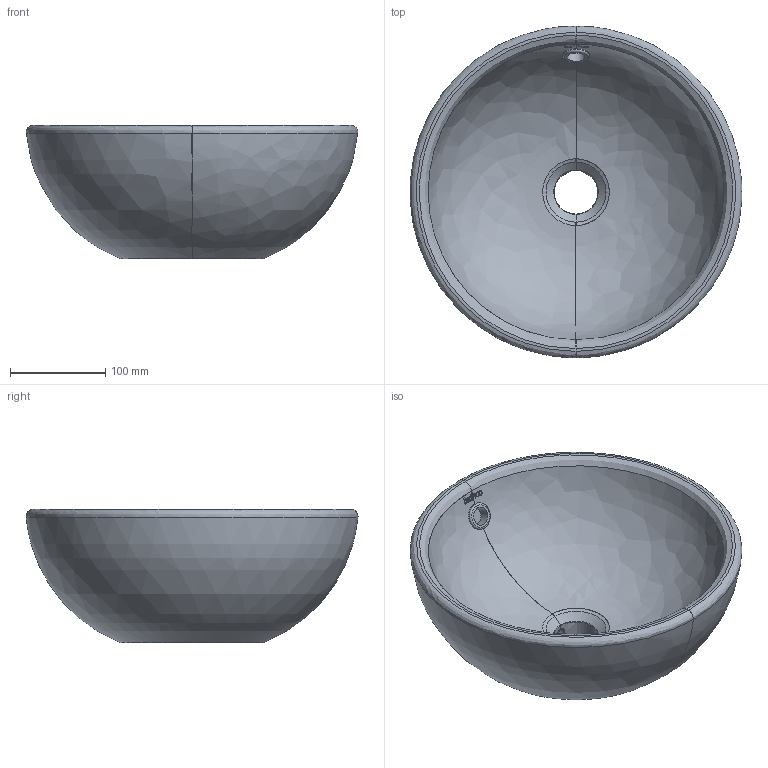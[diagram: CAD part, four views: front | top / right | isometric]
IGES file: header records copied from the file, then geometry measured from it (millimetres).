
Global section: file name: C:\Users\User\Desktop\4015 Castell; native system: Rhinoceros ( Jan 23 2018 ); preprocessor: Trout Lake IGES 012 Jan 23 2018; date: 210312.075409; units: millimetre
Bounding box: 348.1 x 348.74 x 140 mm (x, y, z)
Surface area: 592335.9 mm2 (no closed solid volume)
Topology: 0 solids, 0 shells, 135 faces, 815 edges, 803 vertices
Faces by surface type: bspline 135
